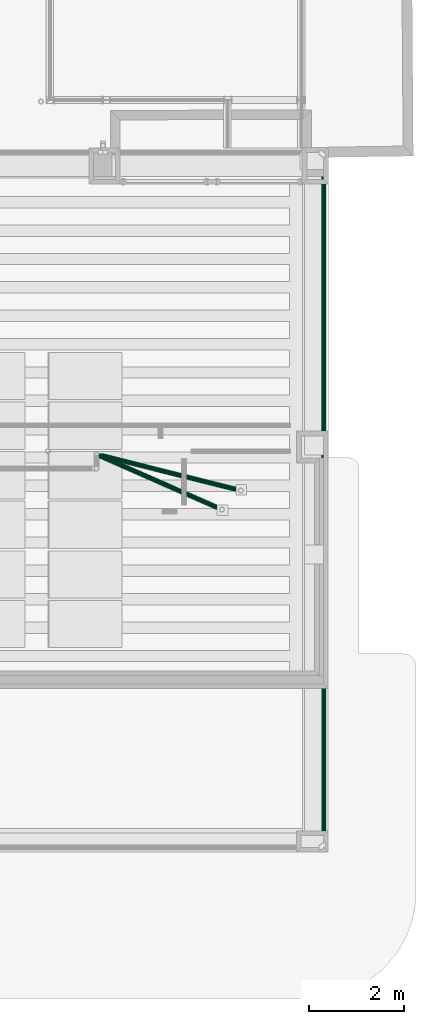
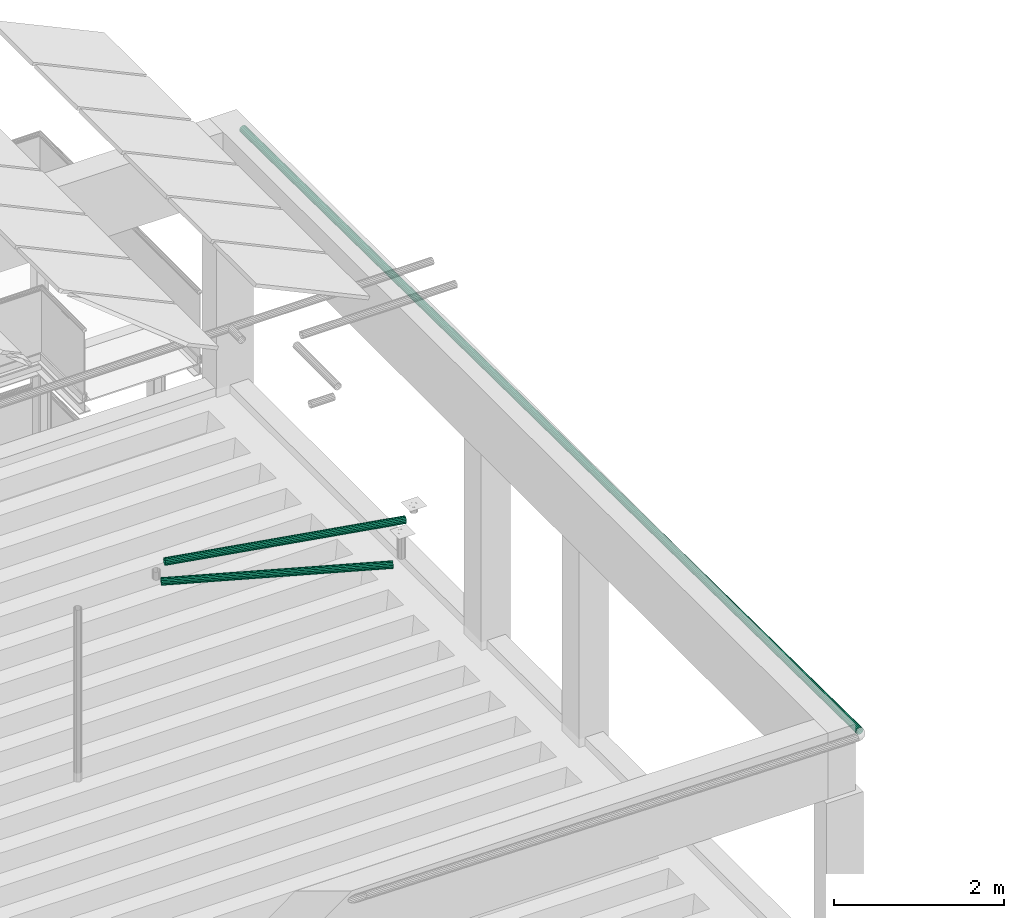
# One storey, part 61 of 108: 3 flow segments.
"""IFC2X3 building model written with IfcOpenShell, lengths in metres."""

import ifcopenshell
import ifcopenshell.guid

model = None  # the IFC model being written
_history = None  # IfcOwnerHistory: only IFC2X3 demands one
_inside = {}  # id of a spatial element -> (the spatial element, [elements in it])
_under = {}  # id of a project, library or spatial element -> (it, [spatial elements below it])
_declared = {}  # id of a project -> (the project, [libraries it declares])
_typed = {}  # id of a type object -> (the type object, [elements of that type])
_made_of = {}  # id of a material, layer set ... -> (it, [elements and type objects made of it])


def new_model(schema):
    """Start an empty IFC model of exactly this schema.

    Asked for "IFC4X3", IfcOpenShell would pick the latest addendum, in which some entities
    have other attributes; the version numbers below select the first issue.
    IFC2X3 requires an IfcOwnerHistory on every rooted entity: one is made here for all.
    """
    global model, _history
    if schema == "IFC4X3":
        model = ifcopenshell.file(schema_version=(4, 3, 0, 0))
    else:
        model = ifcopenshell.file(schema=schema)
    _inside.clear()
    _under.clear()
    _declared.clear()
    _typed.clear()
    _made_of.clear()
    _history = None
    if model.schema == "IFC2X3":
        org = make("IfcOrganization", Name="unknown")
        user = make(
            "IfcPersonAndOrganization",
            ThePerson=make("IfcPerson", FamilyName="unknown"),
            TheOrganization=org,
        )
        app = make(
            "IfcApplication",
            ApplicationDeveloper=org,
            Version="unknown",
            ApplicationFullName="unknown",
            ApplicationIdentifier="unknown",
        )
        _history = make(
            "IfcOwnerHistory",
            OwningUser=user,
            OwningApplication=app,
            ChangeAction="ADDED",
            CreationDate=0,
        )
    return model


def make(cls, **values):
    """One entity of the class cls with the attributes given. An attribute that is None is left unset."""
    return model.create_entity(
        cls, **{name: value for name, value in values.items() if value is not None}
    )


def entity(cls, *values):
    """Any entity or typed value of the class cls, its attributes in the order of the schema. None: left unset."""
    e = model.create_entity(cls)
    for i, value in enumerate(values):
        if value is not None:
            e[i] = value
    return e


def rooted(cls, **values):
    """An entity with a GlobalId (a new one), such as an element, a storey or a relation."""
    return make(cls, GlobalId=ifcopenshell.guid.new(), OwnerHistory=_history, **values)


def si_unit(unit_type, name, prefix=None):
    """IfcSIUnit, for example si_unit("LENGTHUNIT", "METRE", prefix="MILLI")."""
    return make("IfcSIUnit", UnitType=unit_type, Prefix=prefix, Name=name)


def converted_unit(unit_type, name, factor, base, dimensions=None, offset=None):
    """IfcConversionBasedUnit, such as the inch: factor (a typed value) times the base unit."""
    return make(
        "IfcConversionBasedUnit"
        if offset is None
        else "IfcConversionBasedUnitWithOffset",
        ConversionOffset=offset,
        Dimensions=None
        if dimensions is None
        else entity("IfcDimensionalExponents", *dimensions),
        UnitType=unit_type,
        Name=name,
        ConversionFactor=make(
            "IfcMeasureWithUnit", ValueComponent=factor, UnitComponent=base
        ),
    )


def derived_unit(unit_type, elements):
    """IfcDerivedUnit: a product of units, each with its exponent."""
    return make(
        "IfcDerivedUnit",
        Elements=[
            make("IfcDerivedUnitElement", Unit=unit, Exponent=power)
            for unit, power in elements
        ],
        UnitType=unit_type,
    )


def money_unit(currency):
    """IfcMonetaryUnit."""
    return make("IfcMonetaryUnit", Currency=currency)


def assignment(units):
    """IfcUnitAssignment: the units of a project."""
    return None if units is None else make("IfcUnitAssignment", Units=units)


def point(xyz):
    """IfcCartesianPoint."""
    return None if xyz is None else make("IfcCartesianPoint", Coordinates=xyz)


def direction(xyz):
    """IfcDirection."""
    return None if xyz is None else make("IfcDirection", DirectionRatios=xyz)


def frame(location, z_axis=None, x_axis=None):
    """IfcAxis2Placement3D, a coordinate frame: its origin and axes. An axis left out is left unset."""
    return make(
        "IfcAxis2Placement3D",
        Location=point(location),
        Axis=direction(z_axis),
        RefDirection=direction(x_axis),
    )


def origin_with_axes():
    """The frame at (0, 0, 0) with the z axis (0, 0, 1) and the x axis (1, 0, 0) written out."""
    return frame((0.0, 0.0, 0.0), z_axis=(0.0, 0.0, 1.0), x_axis=(1.0, 0.0, 0.0))


def place(relative_to, where):
    """IfcLocalPlacement: puts the frame where relative to a parent placement (None: the world)."""
    return make(
        "IfcLocalPlacement", PlacementRelTo=relative_to, RelativePlacement=where
    )


def context(
    kind, dimensions, precision=None, world=None, true_north=None, identifier=None
):
    """IfcGeometricRepresentationContext, for example the 3D "Model" context."""
    return make(
        "IfcGeometricRepresentationContext",
        ContextIdentifier=identifier,
        ContextType=kind,
        CoordinateSpaceDimension=dimensions,
        Precision=precision,
        WorldCoordinateSystem=world,
        TrueNorth=true_north,
    )


def subcontext(parent, identifier, kind, view, scale=None):
    """IfcGeometricRepresentationSubContext, for example "Body" below "Model"."""
    return make(
        "IfcGeometricRepresentationSubContext",
        ContextIdentifier=identifier,
        ContextType=kind,
        ParentContext=parent,
        TargetScale=scale,
        TargetView=view,
    )


def project(units=None, contexts=None):
    """IfcProject with its units and contexts."""
    return rooted(
        "IfcProject",
        Name="project",
        RepresentationContexts=contexts,
        UnitsInContext=assignment(units),
    )


def spatial(cls, under=None, at=None, **own):
    """A site, building, storey or space (cls), placed at a placement, below another one or the project."""
    s = rooted(cls, ObjectPlacement=at, **own)
    if under is not None:
        _under.setdefault(under.id(), (under, []))[1].append(s)
    return s


def faces_of(points, faces, orient=None, outer=None):
    """IfcFace entities. A face is a list of loops; a loop is a list of indices into points, from 0.

    orient and outer hold one flag for each loop. By default every Orientation is true, the
    first loop of a face is its IfcFaceOuterBound and the others are IfcFaceBound.
    """
    made = []
    for i, loops in enumerate(faces):
        bounds = []
        for j, loop in enumerate(loops):
            is_outer = j == 0 if outer is None else outer[i][j]
            bounds.append(
                make(
                    "IfcFaceOuterBound" if is_outer else "IfcFaceBound",
                    Bound=make("IfcPolyLoop", Polygon=[points[k] for k in loop]),
                    Orientation=True if orient is None else orient[i][j],
                )
            )
        made.append(make("IfcFace", Bounds=bounds))
    return made


def faceted_brep(points, faces, orient=None, outer=None, voids=None):
    """IfcFacetedBrep: a solid bounded by flat faces; with voids (closed shells), ...WithVoids."""
    shared = [point(p) for p in points]
    hull = make("IfcClosedShell", CfsFaces=faces_of(shared, faces, orient, outer))
    if voids is None:
        return make("IfcFacetedBrep", Outer=hull)
    return make(
        "IfcFacetedBrepWithVoids",
        Outer=hull,
        Voids=[
            make(cls, CfsFaces=faces_of(shared, fs, o, b)) for cls, fs, o, b in voids
        ],
    )


def shape(context_of_items, identifier, shape_type, items):
    """IfcShapeRepresentation: the items that make up one representation, for example the "Body"."""
    return make(
        "IfcShapeRepresentation",
        ContextOfItems=context_of_items,
        RepresentationIdentifier=identifier,
        RepresentationType=shape_type,
        Items=items,
    )


def material(Name=None, Category=None):
    """IfcMaterial."""
    return make("IfcMaterial", Name=Name, Category=Category)


def made_of(thing, what):
    """Note that an element or type object is made of a material, layer set ...; save() writes the relation."""
    if what is not None:
        _made_of.setdefault(what.id(), (what, []))[1].append(thing)
    return thing


def type_object(cls, material=None, **own):
    """A type object (cls), such as IfcWallType, which elements share."""
    return made_of(rooted(cls, **own), material)


def element(
    cls,
    number,
    at=None,
    inside=None,
    cuts=None,
    type_object=None,
    material=None,
    context=None,
    identifier="Body",
    shape_type=None,
    held_by="IfcProductDefinitionShape",
    body=None,
    shapes=None,
    **own,
):
    """One element of the class cls, such as IfcWall. Its Tag is "e" and its number.

    at: its placement. inside: the storey or other place that contains it. cuts: it is an
    opening in that element (IfcRelVoidsElement). A single representation is given by context,
    identifier, shape_type and body (its items); several are given by shapes. held_by: the class
    of the entity that holds the representations. save() writes the other relations.
    """
    e = rooted(cls, Tag="e%d" % number, ObjectPlacement=at, **own)
    if body is not None:
        shapes = [shape(context, identifier, shape_type, body)]
    if shapes is not None:
        e.Representation = make(held_by, Representations=shapes)
    if inside is not None:
        _inside.setdefault(inside.id(), (inside, []))[1].append(e)
    if cuts is not None:
        rooted(
            "IfcRelVoidsElement", RelatingBuildingElement=cuts, RelatedOpeningElement=e
        )
    if type_object is not None:
        _typed.setdefault(type_object.id(), (type_object, []))[1].append(e)
    return made_of(e, material)


def aggregate(whole, parts):
    """IfcRelAggregates: a whole, such as a stair, and the parts it consists of."""
    return rooted("IfcRelAggregates", RelatingObject=whole, RelatedObjects=parts)


def save(model, path):
    """Write the relations noted so far, then the file.

    IfcRelAggregates (storeys below a building ...), IfcRelContainedInSpatialStructure (elements
    in a storey), IfcRelDefinesByType, IfcRelAssociatesMaterial and IfcRelDeclares: one each for
    every whole, place, type object, material and project.
    """
    for whole, parts in _under.values():
        aggregate(whole, parts)
    for where, things in _inside.values():
        rooted(
            "IfcRelContainedInSpatialStructure",
            RelatedElements=things,
            RelatingStructure=where,
        )
    for kind, things in _typed.values():
        rooted("IfcRelDefinesByType", RelatedObjects=things, RelatingType=kind)
    for what, things in _made_of.values():
        rooted("IfcRelAssociatesMaterial", RelatedObjects=things, RelatingMaterial=what)
    for by, libraries in _declared.values():
        rooted("IfcRelDeclares", RelatingContext=by, RelatedDefinitions=libraries)
    model.write(path)


model = new_model("IFC2X3")

# Units and contexts
model_context = context("Model", 3, precision=1e-05, world=origin_with_axes(), true_north=direction((0.0, 1.0)))
body_context = subcontext(model_context, "Body", "Model", "MODEL_VIEW", scale=1.0)
ifc_project = project(units=[si_unit("LENGTHUNIT", "METRE"), si_unit("AREAUNIT", "SQUARE_METRE"), si_unit("VOLUMEUNIT", "CUBIC_METRE"), si_unit("ABSORBEDDOSEUNIT", "GRAY"), si_unit("AMOUNTOFSUBSTANCEUNIT", "MOLE"), si_unit("DOSEEQUIVALENTUNIT", "SIEVERT"), si_unit("ELECTRICCAPACITANCEUNIT", "FARAD"), si_unit("ELECTRICCHARGEUNIT", "COULOMB"), si_unit("ELECTRICCONDUCTANCEUNIT", "SIEMENS"), si_unit("ELECTRICCURRENTUNIT", "AMPERE"), si_unit("ELECTRICRESISTANCEUNIT", "OHM"), si_unit("ELECTRICVOLTAGEUNIT", "VOLT"), si_unit("ENERGYUNIT", "JOULE"), si_unit("FORCEUNIT", "NEWTON"), si_unit("FREQUENCYUNIT", "HERTZ"), si_unit("ILLUMINANCEUNIT", "LUX"), si_unit("INDUCTANCEUNIT", "HENRY"), si_unit("LUMINOUSFLUXUNIT", "LUMEN"), si_unit("LUMINOUSINTENSITYUNIT", "CANDELA"), si_unit("MAGNETICFLUXDENSITYUNIT", "TESLA"), si_unit("MAGNETICFLUXUNIT", "WEBER"), si_unit("MASSUNIT", "GRAM"), converted_unit("PLANEANGLEUNIT", "degree", entity("IfcReal", 0.0174532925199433), si_unit("PLANEANGLEUNIT", "RADIAN"), dimensions=[0, 0, 0, 0, 0, 0, 0]), si_unit("POWERUNIT", "WATT"), si_unit("PRESSUREUNIT", "PASCAL"), si_unit("RADIOACTIVITYUNIT", "BECQUEREL"), si_unit("SOLIDANGLEUNIT", "STERADIAN"), si_unit("THERMODYNAMICTEMPERATUREUNIT", "KELVIN"), si_unit("TIMEUNIT", "SECOND"), derived_unit("ACCELERATIONUNIT", [(si_unit("LENGTHUNIT", "METRE"), 1), (si_unit("TIMEUNIT", "SECOND"), -2)]), derived_unit("ANGULARVELOCITYUNIT", [(converted_unit("PLANEANGLEUNIT", "degree", entity("IfcReal", 0.0174532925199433), si_unit("PLANEANGLEUNIT", "RADIAN"), dimensions=[0, 0, 0, 0, 0, 0, 0]), 1), (si_unit("TIMEUNIT", "SECOND"), -1)]), derived_unit("CURVATUREUNIT", [(converted_unit("PLANEANGLEUNIT", "degree", entity("IfcReal", 0.0174532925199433), si_unit("PLANEANGLEUNIT", "RADIAN"), dimensions=[0, 0, 0, 0, 0, 0, 0]), 1), (si_unit("LENGTHUNIT", "METRE"), -1)]), derived_unit("DYNAMICVISCOSITYUNIT", [(si_unit("PRESSUREUNIT", "PASCAL"), 1), (si_unit("TIMEUNIT", "SECOND"), 1)]), derived_unit("HEATFLUXDENSITYUNIT", [(si_unit("POWERUNIT", "WATT"), 1), (si_unit("LENGTHUNIT", "METRE"), -2)]), derived_unit("HEATINGVALUEUNIT", [(si_unit("ENERGYUNIT", "JOULE"), 1), (si_unit("MASSUNIT", "GRAM"), -1)]), derived_unit("INTEGERCOUNTRATEUNIT", [(si_unit("TIMEUNIT", "SECOND"), -1)]), derived_unit("IONCONCENTRATIONUNIT", [(si_unit("MASSUNIT", "GRAM"), 1), (si_unit("VOLUMEUNIT", "CUBIC_METRE"), -1)]), derived_unit("ISOTHERMALMOISTURECAPACITYUNIT", [(si_unit("VOLUMEUNIT", "CUBIC_METRE"), 1), (si_unit("MASSUNIT", "GRAM"), -1)]), derived_unit("KINEMATICVISCOSITYUNIT", [(si_unit("AREAUNIT", "SQUARE_METRE"), 1), (si_unit("TIMEUNIT", "SECOND"), -1)]), derived_unit("LINEARFORCEUNIT", [(si_unit("FORCEUNIT", "NEWTON"), 1), (si_unit("LENGTHUNIT", "METRE"), -1)]), derived_unit("LINEARMOMENTUNIT", [(si_unit("FORCEUNIT", "NEWTON"), 1), (si_unit("LENGTHUNIT", "METRE"), -1)]), derived_unit("LINEARSTIFFNESSUNIT", [(si_unit("FORCEUNIT", "NEWTON"), 1), (si_unit("LENGTHUNIT", "METRE"), -1)]), derived_unit("LINEARVELOCITYUNIT", [(si_unit("LENGTHUNIT", "METRE"), 1), (si_unit("TIMEUNIT", "SECOND"), -1)]), derived_unit("LUMINOUSINTENSITYDISTRIBUTIONUNIT", [(si_unit("LUMINOUSINTENSITYUNIT", "CANDELA"), 1), (si_unit("LUMINOUSFLUXUNIT", "LUMEN"), -1)]), derived_unit("MASSDENSITYUNIT", [(si_unit("MASSUNIT", "GRAM"), 1), (si_unit("VOLUMEUNIT", "CUBIC_METRE"), -1)]), derived_unit("MASSFLOWRATEUNIT", [(si_unit("MASSUNIT", "GRAM"), 1), (si_unit("TIMEUNIT", "SECOND"), -1)]), derived_unit("MASSPERLENGTHUNIT", [(si_unit("MASSUNIT", "GRAM"), 1), (si_unit("LENGTHUNIT", "METRE"), -1)]), derived_unit("MODULUSOFELASTICITYUNIT", [(si_unit("FORCEUNIT", "NEWTON"), 1), (si_unit("AREAUNIT", "SQUARE_METRE"), -1)]), derived_unit("MODULUSOFLINEARSUBGRADEREACTIONUNIT", [(si_unit("FORCEUNIT", "NEWTON"), 1), (si_unit("LENGTHUNIT", "METRE"), -2)]), derived_unit("MODULUSOFROTATIONALSUBGRADEREACTIONUNIT", [(si_unit("FORCEUNIT", "NEWTON"), 1), (si_unit("LENGTHUNIT", "METRE"), 1)]), derived_unit("MODULUSOFSUBGRADEREACTIONUNIT", [(si_unit("FORCEUNIT", "NEWTON"), 1), (si_unit("VOLUMEUNIT", "CUBIC_METRE"), -1)]), derived_unit("MOISTUREDIFFUSIVITYUNIT", [(si_unit("VOLUMEUNIT", "CUBIC_METRE"), 1), (si_unit("TIMEUNIT", "SECOND"), -1)]), derived_unit("MOLECULARWEIGHTUNIT", [(si_unit("MASSUNIT", "GRAM"), 1), (si_unit("AMOUNTOFSUBSTANCEUNIT", "MOLE"), -1)]), derived_unit("PLANARFORCEUNIT", [(si_unit("FORCEUNIT", "NEWTON"), 1), (si_unit("LENGTHUNIT", "METRE"), -2)]), derived_unit("ROTATIONALFREQUENCYUNIT", [(si_unit("TIMEUNIT", "SECOND"), -1)]), derived_unit("ROTATIONALMASSUNIT", [(si_unit("MASSUNIT", "GRAM"), 1), (si_unit("LENGTHUNIT", "METRE"), 2)]), derived_unit("ROTATIONALSTIFFNESSUNIT", [(si_unit("FORCEUNIT", "NEWTON"), 1), (si_unit("LENGTHUNIT", "METRE"), 1), (converted_unit("PLANEANGLEUNIT", "degree", entity("IfcReal", 0.0174532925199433), si_unit("PLANEANGLEUNIT", "RADIAN"), dimensions=[0, 0, 0, 0, 0, 0, 0]), -1)]), derived_unit("SECTIONAREAINTEGRALUNIT", [(si_unit("LENGTHUNIT", "METRE"), 5)]), derived_unit("SECTIONMODULUSUNIT", [(si_unit("LENGTHUNIT", "METRE"), 3)]), derived_unit("SHEARMODULUSUNIT", [(si_unit("FORCEUNIT", "NEWTON"), 1), (si_unit("AREAUNIT", "SQUARE_METRE"), -1)]), derived_unit("SOUNDPOWERUNIT", [(si_unit("ENERGYUNIT", "JOULE"), 1), (si_unit("TIMEUNIT", "SECOND"), -1)]), derived_unit("SPECIFICHEATCAPACITYUNIT", [(si_unit("FORCEUNIT", "NEWTON"), 1), (si_unit("MASSUNIT", "GRAM"), -1), (si_unit("THERMODYNAMICTEMPERATUREUNIT", "KELVIN"), -1)]), derived_unit("TEMPERATUREGRADIENTUNIT", [(si_unit("THERMODYNAMICTEMPERATUREUNIT", "KELVIN"), 1), (si_unit("LENGTHUNIT", "METRE"), -1)]), derived_unit("THERMALADMITTANCEUNIT", [(si_unit("POWERUNIT", "WATT"), 1), (si_unit("AREAUNIT", "SQUARE_METRE"), -1), (si_unit("THERMODYNAMICTEMPERATUREUNIT", "KELVIN"), -1)]), derived_unit("THERMALCONDUCTANCEUNIT", [(si_unit("POWERUNIT", "WATT"), 1), (si_unit("LENGTHUNIT", "METRE"), -1), (si_unit("THERMODYNAMICTEMPERATUREUNIT", "KELVIN"), -1)]), derived_unit("THERMALEXPANSIONCOEFFICIENTUNIT", [(si_unit("THERMODYNAMICTEMPERATUREUNIT", "KELVIN"), -1)]), derived_unit("THERMALRESISTANCEUNIT", [(si_unit("AREAUNIT", "SQUARE_METRE"), 1), (si_unit("POWERUNIT", "WATT"), -1)]), derived_unit("THERMALTRANSMITTANCEUNIT", [(si_unit("POWERUNIT", "WATT"), 1), (si_unit("AREAUNIT", "SQUARE_METRE"), -1), (si_unit("THERMODYNAMICTEMPERATUREUNIT", "KELVIN"), -1)]), derived_unit("TORQUEUNIT", [(si_unit("FORCEUNIT", "NEWTON"), 1), (si_unit("LENGTHUNIT", "METRE"), 1)]), derived_unit("VAPORPERMEABILITYUNIT", [(si_unit("MASSUNIT", "GRAM"), 1), (si_unit("TIMEUNIT", "SECOND"), -1)]), derived_unit("VOLUMETRICFLOWRATEUNIT", [(si_unit("VOLUMEUNIT", "CUBIC_METRE"), 1), (si_unit("TIMEUNIT", "SECOND"), -1)]), derived_unit("WARPINGCONSTANTUNIT", [(si_unit("LENGTHUNIT", "METRE"), 6)]), derived_unit("WARPINGMOMENTUNIT", [(si_unit("FORCEUNIT", "NEWTON"), 1), (si_unit("LENGTHUNIT", "METRE"), 2)]), money_unit("GBP")], contexts=[model_context])

# Site, building, storey
site_placement = place(None, origin_with_axes())
site = spatial("IfcSite", under=ifc_project, at=site_placement, Name="Site", CompositionType="ELEMENT")
building_placement = place(site_placement, origin_with_axes())
building = spatial("IfcBuilding", under=site, at=building_placement, Name="Building01", CompositionType="ELEMENT")
storey_placement = place(building_placement, origin_with_axes())
storey = spatial("IfcBuildingStorey", under=building, at=storey_placement, Name="GF", CompositionType="ELEMENT", Elevation=0.0)

# Flow segments
ifc_material = material(Name="M_BSUK_ColdWater")
pipe_segment_type = type_object("IfcPipeSegmentType", Name="M-BmpStraightpipe-DefaultPipe", PredefinedType="RIGIDSEGMENT")
flow_segment_1_placement = place(storey_placement, frame((25.034018, 7.675534, 14.787509), z_axis=(-0.24316486, -0.96998497, 0.0), x_axis=(-0.9699092, 0.24314586, -0.01249902)))
element("IfcFlowSegment", 1, at=flow_segment_1_placement, inside=storey, type_object=pipe_segment_type, material=ifc_material, Name="M-BmpStraightpipe-DefaultPipe", ObjectType="M-BmpStraightpipe-DefaultPipe", context=body_context, shape_type="Brep", body=[
    faceted_brep([(2.950349, 0.0, -0.05), (0.0, 0.0, -0.05), (0.0, 0.019134, -0.046194), (2.950349, 0.019134, -0.046194), (0.0, 0.035355, -0.035355), (2.950349, 0.035355, -0.035355), (0.0, 0.046194, -0.019134), (2.950349, 0.046194, -0.019134), (0.0, 0.05, 0.0), (2.950349, 0.05, 0.0), (0.0, 0.046194, 0.019134), (2.950349, 0.046194, 0.019134), (0.0, 0.035355, 0.035355), (2.950349, 0.035355, 0.035355), (0.0, 0.019134, 0.046194), (2.950349, 0.019134, 0.046194), (0.0, 0.0, 0.05), (2.950349, 0.0, 0.05), (0.0, -0.019134, 0.046194), (2.950349, -0.019134, 0.046194), (0.0, -0.035355, 0.035355), (2.950349, -0.035355, 0.035355), (0.0, -0.046194, 0.019134), (2.950349, -0.046194, 0.019134), (0.0, -0.05, 0.0), (2.950349, -0.05, 0.0), (0.0, -0.046194, -0.019134), (2.950349, -0.046194, -0.019134), (0.0, -0.035355, -0.035355), (2.950349, -0.035355, -0.035355), (0.0, -0.019134, -0.046194), (2.950349, -0.019134, -0.046194)], [[[0, 1, 2, 3]], [[3, 2, 4, 5]], [[5, 4, 6, 7]], [[7, 6, 8, 9]], [[9, 8, 10, 11]], [[11, 10, 12, 13]], [[13, 12, 14, 15]], [[15, 14, 16, 17]], [[17, 16, 18, 19]], [[19, 18, 20, 21]], [[21, 20, 22, 23]], [[23, 22, 24, 25]], [[25, 24, 26, 27]], [[27, 26, 28, 29]], [[29, 28, 30, 31]], [[31, 30, 1, 0]]]),
])
flow_segment_2_placement = place(storey_placement, frame((24.639464, 7.288508, 14.514695), z_axis=(-0.40296896, -0.91521364, 0.0), x_axis=(-0.91514215, 0.40293748, -0.01249902)))
element("IfcFlowSegment", 2, at=flow_segment_2_placement, inside=storey, type_object=pipe_segment_type, material=ifc_material, Name="M-BmpStraightpipe-DefaultPipe", ObjectType="M-BmpStraightpipe-DefaultPipe", context=body_context, shape_type="Brep", body=[
    faceted_brep([(2.744812, 0.0, -0.05), (0.0, 0.0, -0.05), (0.0, 0.019134, -0.046194), (2.744812, 0.019134, -0.046194), (0.0, 0.035355, -0.035355), (2.744812, 0.035355, -0.035355), (0.0, 0.046194, -0.019134), (2.744812, 0.046194, -0.019134), (0.0, 0.05, 0.0), (2.744812, 0.05, 0.0), (0.0, 0.046194, 0.019134), (2.744812, 0.046194, 0.019134), (0.0, 0.035355, 0.035355), (2.744812, 0.035355, 0.035355), (0.0, 0.019134, 0.046194), (2.744812, 0.019134, 0.046194), (0.0, 0.0, 0.05), (2.744812, 0.0, 0.05), (0.0, -0.019134, 0.046194), (2.744812, -0.019134, 0.046194), (0.0, -0.035355, 0.035355), (2.744812, -0.035355, 0.035355), (0.0, -0.046194, 0.019134), (2.744812, -0.046194, 0.019134), (0.0, -0.05, 0.0), (2.744812, -0.05, 0.0), (0.0, -0.046194, -0.019134), (2.744812, -0.046194, -0.019134), (0.0, -0.035355, -0.035355), (2.744812, -0.035355, -0.035355), (0.0, -0.019134, -0.046194), (2.744812, -0.019134, -0.046194)], [[[0, 1, 2, 3]], [[3, 2, 4, 5]], [[5, 4, 6, 7]], [[7, 6, 8, 9]], [[9, 8, 10, 11]], [[11, 10, 12, 13]], [[13, 12, 14, 15]], [[15, 14, 16, 17]], [[17, 16, 18, 19]], [[19, 18, 20, 21]], [[21, 20, 22, 23]], [[23, 22, 24, 25]], [[25, 24, 26, 27]], [[27, 26, 28, 29]], [[29, 28, 30, 31]], [[31, 30, 1, 0]]]),
])
flow_segment_3_placement = place(storey_placement, frame((26.885, 14.706036, 15.487767), z_axis=(1.0, 0.0, 0.0), x_axis=(0.0, -0.99994498, 0.01049024)))
element("IfcFlowSegment", 3, at=flow_segment_3_placement, inside=storey, type_object=pipe_segment_type, material=ifc_material, Name="M-BmpStraightpipe-DefaultPipe", ObjectType="M-BmpStraightpipe-DefaultPipe", context=body_context, shape_type="Brep", body=[
    faceted_brep([(14.511864, 0.0, -0.05), (0.0, 0.0, -0.05), (0.0, 0.019134, -0.046194), (14.511864, 0.019134, -0.046194), (0.0, 0.035355, -0.035355), (14.511864, 0.035355, -0.035355), (0.0, 0.046194, -0.019134), (14.511864, 0.046194, -0.019134), (0.0, 0.05, 0.0), (14.511864, 0.05, 0.0), (0.0, 0.046194, 0.019134), (14.511864, 0.046194, 0.019134), (0.0, 0.035355, 0.035355), (14.511864, 0.035355, 0.035355), (0.0, 0.019134, 0.046194), (14.511864, 0.019134, 0.046194), (0.0, 0.0, 0.05), (14.511864, 0.0, 0.05), (0.0, -0.019134, 0.046194), (14.511864, -0.019134, 0.046194), (0.0, -0.035355, 0.035355), (14.511864, -0.035355, 0.035355), (0.0, -0.046194, 0.019134), (14.511864, -0.046194, 0.019134), (0.0, -0.05, 0.0), (14.511864, -0.05, 0.0), (0.0, -0.046194, -0.019134), (14.511864, -0.046194, -0.019134), (0.0, -0.035355, -0.035355), (14.511864, -0.035355, -0.035355), (0.0, -0.019134, -0.046194), (14.511864, -0.019134, -0.046194)], [[[0, 1, 2, 3]], [[3, 2, 4, 5]], [[5, 4, 6, 7]], [[7, 6, 8, 9]], [[9, 8, 10, 11]], [[11, 10, 12, 13]], [[13, 12, 14, 15]], [[15, 14, 16, 17]], [[17, 16, 18, 19]], [[19, 18, 20, 21]], [[21, 20, 22, 23]], [[23, 22, 24, 25]], [[25, 24, 26, 27]], [[27, 26, 28, 29]], [[29, 28, 30, 31]], [[31, 30, 1, 0]]]),
])

save(model, "model.ifc")
